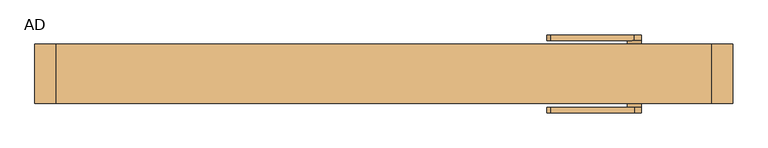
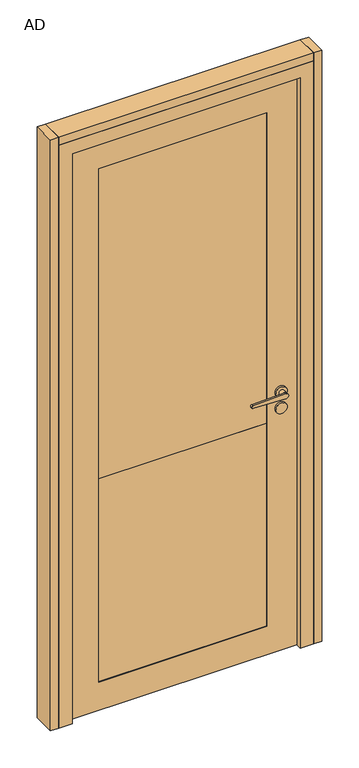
"""IFC4 building model written with IfcOpenShell, lengths in millimetres: door geometry, Mobiliário_Mobiliário de Escritório_Porta de Giro Mista Vidro Duplo - AD_Marelli : AD."""

from ifc_helpers import new_model, si_unit, point, frame, frame_2d, origin, origin_with_axes, place, context, project, spatial, polyline, circle_curve, trimmed, segment, composite_curve, outline, extrude, faceted_brep, source, transform, mapped, element, save


def ad_85d287fc(model_context):
    return source(origin(), model_context, "Body", "SolidModel", [
        extrude(outline(polyline([(-500.0, -42.5), (-500.0, 42.5), (-470.0, 42.5), (-470.0, -42.5), (-500.0, -42.5)])), origin_with_axes(), (0.0, 0.0, 1.0), 2300.0),
        extrude(outline(polyline([(500.0, -42.5), (470.0, -42.5), (470.0, 42.5), (500.0, 42.5), (500.0, -42.5)])), origin_with_axes(), (0.0, 0.0, 1.0), 2300.0),
        extrude(outline(polyline([(2219.5, -419.5), (0.5, -419.5), (0.5, 419.5), (2219.5, 419.5), (2219.5, -419.5)]), holes=[polyline([(110.5, 309.5), (110.5, -309.5), (2109.5, -309.5), (2109.5, 309.5), (110.5, 309.5)])]), frame((0.0, -21.0, 0.0), z_axis=(0.0, 1.0, 0.0), x_axis=(0.0, 0.0, 1.0)), (0.0, 0.0, 1.0), 42.0),
        extrude(outline(polyline([(309.5, -18.5), (-309.5, -18.5), (-309.5, -12.5), (309.5, -12.5), (309.5, -18.5)])), frame((0.0, 0.0, 900.5), z_axis=(0.0, 0.0, 1.0), x_axis=(1.0, 0.0, 0.0)), (0.0, 0.0, 1.0), 1209.0),
        extrude(outline(polyline([(309.5, 18.5), (309.5, 12.5), (-309.5, 12.5), (-309.5, 18.5), (309.5, 18.5)])), frame((0.0, 0.0, 900.5), z_axis=(0.0, 0.0, 1.0), x_axis=(1.0, 0.0, 0.0)), (0.0, 0.0, 1.0), 1209.0),
        extrude(outline(polyline([(470.0, -42.5), (-470.0, -42.5), (-470.0, 42.5), (470.0, 42.5), (470.0, -42.5)])), frame((0.0, 0.0, 2270.0), z_axis=(0.0, 0.0, 1.0), x_axis=(1.0, 0.0, 0.0)), (0.0, 0.0, 1.0), 30.0),
        faceted_brep([(-470.0, 42.5, 2270.0), (470.0, 42.5, 2270.0), (470.0, 42.5, 0.0), (390.0, 42.5, 0.0), (390.0, 42.5, 2190.0), (-390.0, 42.5, 2190.0), (-390.0, 42.5, 0.0), (-470.0, 42.5, 0.0), (-470.0, -42.5, 0.0), (-470.0, -42.5, 2270.0), (-390.0, 21.5, 0.0), (-420.0, 21.5, 0.0), (-420.0, -42.5, 0.0), (470.0, -42.5, 0.0), (420.0, -42.5, 0.0), (420.0, 21.5, 0.0), (390.0, 21.5, 0.0), (-390.0, 21.5, 2190.0), (390.0, 21.5, 2190.0), (470.0, -42.5, 2270.0), (420.0, 21.5, 2220.0), (-420.0, 21.5, 2220.0), (-420.0, -42.5, 2220.0), (420.0, -42.5, 2220.0)], [[[0, 1, 2, 3, 4, 5, 6, 7]], [[0, 7, 8, 9]], [[7, 6, 10, 11, 12, 8]], [[2, 13, 14, 15, 16, 3]], [[6, 5, 17, 10]], [[16, 18, 4, 3]], [[19, 13, 2, 1]], [[18, 16, 15, 20, 21, 11, 10, 17]], [[21, 22, 12, 11]], [[14, 23, 20, 15]], [[23, 14, 13, 19, 9, 8, 12, 22]], [[4, 18, 17, 5]], [[22, 21, 20, 23]], [[19, 1, 0, 9]]]),
        extrude(outline(polyline([(309.5, -18.5), (-309.5, -18.5), (-309.5, 18.5), (309.5, 18.5), (309.5, -18.5)])), frame((0.0, 0.0, 110.5), z_axis=(0.0, 0.0, 1.0), x_axis=(1.0, 0.0, 0.0)), (0.0, 0.0, 1.0), 790.0),
        extrude(outline(polyline([(309.5, -12.5), (-309.5, -12.5), (-309.5, 12.5), (309.5, 12.5), (309.5, -12.5)])), frame((0.0, 0.0, 2076.5), z_axis=(0.0, 0.0, 1.0), x_axis=(1.0, 0.0, 0.0)), (0.0, 0.0, 1.0), 25.0),
        extrude(outline(composite_curve([segment(trimmed(circle_curve(frame_2d((1010.0, 359.2)), 20.8), [point((1010.0, 338.4))], [point((1010.0, 380.0))], False, "CARTESIAN"), True, "CONTINUOUS"), segment(trimmed(circle_curve(frame_2d((1010.0, 359.2)), 20.8), [point((1010.0, 380.0))], [point((1010.0, 338.4))], False, "CARTESIAN"), True, "CONTINUOUS")], self_intersect=False)), frame((0.0, -29.0, 0.0), z_axis=(0.0, 1.0, 0.0), x_axis=(0.0, 0.0, 1.0)), (0.0, 0.0, 1.0), 8.0),
        extrude(outline(composite_curve([segment(trimmed(circle_curve(frame_2d((947.58, 359.2)), 20.8), [point((947.58, 338.4))], [point((947.58, 380.0))], False, "CARTESIAN"), True, "CONTINUOUS"), segment(trimmed(circle_curve(frame_2d((947.58, 359.2)), 20.8), [point((947.58, 380.0))], [point((947.58, 338.4))], False, "CARTESIAN"), True, "CONTINUOUS")], self_intersect=False)), frame((0.0, -29.0, 0.0), z_axis=(0.0, 1.0, 0.0), x_axis=(0.0, 0.0, 1.0)), (0.0, 0.0, 1.0), 8.0),
        extrude(outline(composite_curve([segment(trimmed(circle_curve(frame_2d((1010.0, 359.2)), 20.8), [point((1010.0, 338.4))], [point((1010.0, 380.0))], False, "CARTESIAN"), True, "CONTINUOUS"), segment(trimmed(circle_curve(frame_2d((1010.0, 359.2)), 20.8), [point((1010.0, 380.0))], [point((1010.0, 338.4))], False, "CARTESIAN"), True, "CONTINUOUS")], self_intersect=False)), frame((0.0, 21.0, 0.0), z_axis=(0.0, 1.0, 0.0), x_axis=(0.0, 0.0, 1.0)), (0.0, 0.0, 1.0), 8.0),
        extrude(outline(composite_curve([segment(trimmed(circle_curve(frame_2d((947.58, 359.2)), 20.8), [point((947.58, 338.4))], [point((947.58, 380.0))], False, "CARTESIAN"), True, "CONTINUOUS"), segment(trimmed(circle_curve(frame_2d((947.58, 359.2)), 20.8), [point((947.58, 380.0))], [point((947.58, 338.4))], False, "CARTESIAN"), True, "CONTINUOUS")], self_intersect=False)), frame((0.0, 21.0, 0.0), z_axis=(0.0, 1.0, 0.0), x_axis=(0.0, 0.0, 1.0)), (0.0, 0.0, 1.0), 8.0),
        extrude(outline(composite_curve([segment(trimmed(circle_curve(frame_2d((1010.0, 359.2)), 10.0), [point((1000.0, 359.2))], [point((1020.0, 359.2))], False, "CARTESIAN"), True, "CONTINUOUS"), segment(polyline([(1020.0, 359.2), (1014.970724, 239.0650676)]), True, "CONTINUOUS"), segment(trimmed(circle_curve(frame_2d((1010.0145906, 239.0650676)), 4.9561334), [point((1014.970724, 239.0650676))], [point((1005.0584573, 239.0650676))], False, "CARTESIAN"), True, "CONTINUOUS"), segment(polyline([(1005.0584573, 239.0650676), (1000.0, 359.2)]), True, "CONTINUOUS")], self_intersect=False)), frame((0.0, -56.0, 0.0), z_axis=(0.0, 1.0, 0.0), x_axis=(0.0, 0.0, 1.0)), (0.0, 0.0, 1.0), 8.0),
        extrude(outline(composite_curve([segment(trimmed(circle_curve(frame_2d((1010.0, 359.2)), 10.0), [point((1010.0, 349.2))], [point((1010.0, 369.2))], False, "CARTESIAN"), True, "CONTINUOUS"), segment(trimmed(circle_curve(frame_2d((1010.0, 359.2)), 10.0), [point((1010.0, 369.2))], [point((1010.0, 349.2))], False, "CARTESIAN"), True, "CONTINUOUS")], self_intersect=False)), frame((0.0, 29.0, 0.0), z_axis=(0.0, 1.0, 0.0), x_axis=(0.0, 0.0, 1.0)), (0.0, 0.0, 1.0), 19.0),
        extrude(outline(composite_curve([segment(trimmed(circle_curve(frame_2d((1010.0, 359.2)), 10.0), [point((1010.0, 349.2))], [point((1010.0, 369.2))], False, "CARTESIAN"), True, "CONTINUOUS"), segment(trimmed(circle_curve(frame_2d((1010.0, 359.2)), 10.0), [point((1010.0, 369.2))], [point((1010.0, 349.2))], False, "CARTESIAN"), True, "CONTINUOUS")], self_intersect=False)), frame((0.0, -48.0, 0.0), z_axis=(0.0, 1.0, 0.0), x_axis=(0.0, 0.0, 1.0)), (0.0, 0.0, 1.0), 19.0),
        extrude(outline(composite_curve([segment(trimmed(circle_curve(frame_2d((1010.0145906, 239.0650676)), 4.9561334), [point((1014.970724, 239.0650676))], [point((1005.0584573, 239.0650676))], False, "CARTESIAN"), True, "CONTINUOUS"), segment(polyline([(1005.0584573, 239.0650676), (1000.0, 359.2)]), True, "CONTINUOUS"), segment(trimmed(circle_curve(frame_2d((1010.0, 359.2)), 10.0), [point((1000.0, 359.2))], [point((1020.0, 359.2))], False, "CARTESIAN"), True, "CONTINUOUS"), segment(polyline([(1020.0, 359.2), (1014.970724, 239.0650676)]), True, "CONTINUOUS")], self_intersect=False)), frame((0.0, 48.0, 0.0), z_axis=(0.0, 1.0, 0.0), x_axis=(0.0, 0.0, 1.0)), (0.0, 0.0, 1.0), 8.0),
    ])


if __name__ == "__main__":
    model = new_model("IFC4")
    model_context = context("Model", 3, world=origin())
    ifc_project = project(units=[si_unit("LENGTHUNIT", "METRE", prefix="MILLI")], contexts=[model_context])
    site = spatial("IfcSite", under=ifc_project)
    building = spatial("IfcBuilding", under=site)
    placement = place(None, origin())
    ad_shape = ad_85d287fc(model_context)
    element("IfcDoor", 1, ObjectType="Mobiliário_Mobiliário de Escritório_Porta de Giro Mista Vidro Duplo - AD_Marelli : AD", at=placement, inside=building, context=model_context, shape_type="MappedRepresentation", body=[
        mapped(ad_shape, transform((0.0, 0.0, 0.0), x_axis=(1.0, 0.0, 0.0), y_axis=(0.0, 1.0, 0.0), z_axis=(0.0, 0.0, 1.0))),
    ])
    save(model, "model.ifc")
